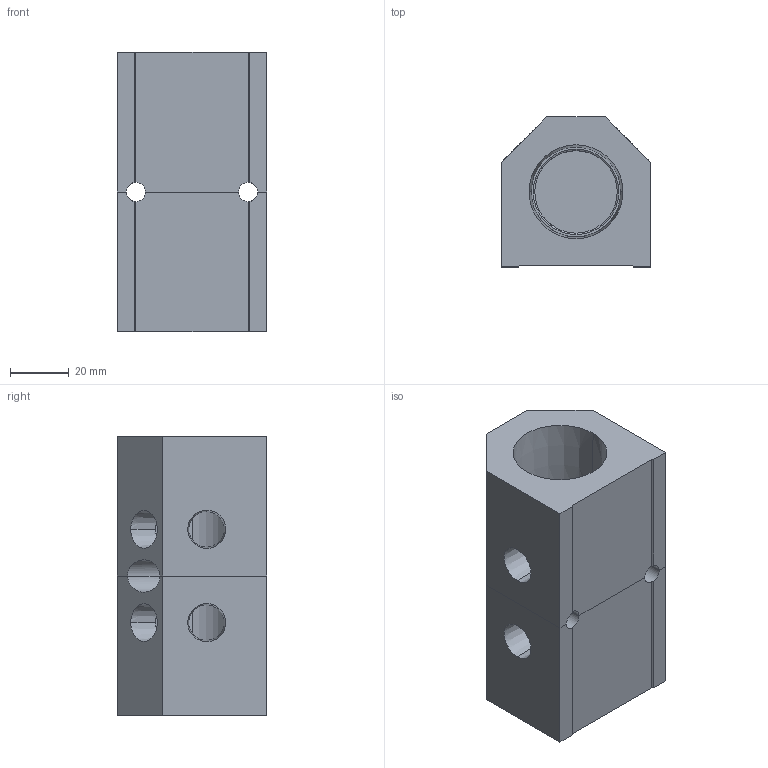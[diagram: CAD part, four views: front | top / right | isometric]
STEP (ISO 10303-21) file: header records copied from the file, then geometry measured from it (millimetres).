
FILE_DESCRIPTION (( 'STEP AP214' ), '1' );
FILE_NAME ('ALM2AB-N4N16-95RB.STEP', '2023-11-02T06:05:35', ( '' ), ( '' ), 'SwSTEP 2.0', 'SolidWorks 2020', '' );
FILE_SCHEMA (( 'AUTOMOTIVE_DESIGN' ));
Length unit declared in the file: millimetre
Products named in the file (1): ALM2AB-N4N16-95RB
Bounding box: 50.8 x 50.8 x 95 mm (x, y, z)
Volume: 146670.5 mm3; surface area: 36850.6 mm2
Topology: 2 solids, 2 shells, 328 faces, 857 edges, 568 vertices
Faces by surface type: plane 233, bspline 59, cylinder 20, cone 16
Entity records: 16900 total; most frequent: CARTESIAN_POINT 6287, ORIENTED_EDGE 1714, DIRECTION 1309, EDGE_CURVE 857, VECTOR 665, LINE 665, VERTEX_POINT 568, EDGE_LOOP 371
